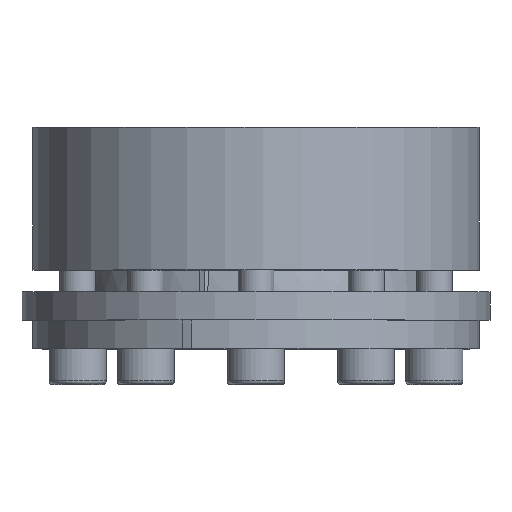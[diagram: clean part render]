
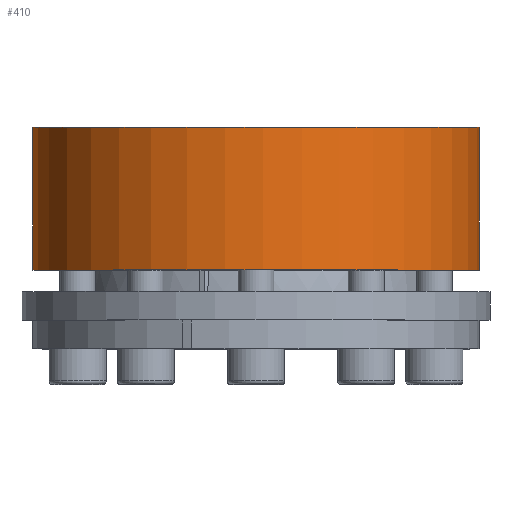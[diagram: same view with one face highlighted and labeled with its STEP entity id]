
A CAD part, top view. The second image highlights one B-rep face of the part: STEP entity #410.
In plain terms, the highlighted cylindrical face has radius 62.5 mm (diameter 125 mm), a partial arc.
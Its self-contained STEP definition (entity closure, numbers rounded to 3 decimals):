
#410 = ADVANCED_FACE( '', ( #674 ), #675, .T. );
#674 = FACE_OUTER_BOUND( '', #878, .T. );
#675 = CYLINDRICAL_SURFACE( '', #879, 62.5 );
#878 = EDGE_LOOP( '', ( #1263, #1264, #1265, #1266 ) );
#879 = AXIS2_PLACEMENT_3D( '', #1267, #1268, #1269 );
#1263 = ORIENTED_EDGE( '', *, *, #1629, .F. );
#1264 = ORIENTED_EDGE( '', *, *, #1567, .T. );
#1265 = ORIENTED_EDGE( '', *, *, #1630, .T. );
#1266 = ORIENTED_EDGE( '', *, *, #1553, .F. );
#1267 = CARTESIAN_POINT( '', ( 0., -60., 0. ) );
#1268 = DIRECTION( '', ( 0., 1., 0. ) );
#1269 = DIRECTION( '', ( 0., 0., -1. ) );
#1553 = EDGE_CURVE( '', #1751, #1752, #1753, .F. );
#1567 = EDGE_CURVE( '', #1771, #1773, #1775, .F. );
#1629 = EDGE_CURVE( '', #1771, #1751, #1875, .T. );
#1630 = EDGE_CURVE( '', #1773, #1752, #1876, .T. );
#1751 = VERTEX_POINT( '', #1950 );
#1752 = VERTEX_POINT( '', #1951 );
#1753 = LINE( '', #1952, #1953 );
#1771 = VERTEX_POINT( '', #1983 );
#1773 = VERTEX_POINT( '', #1986 );
#1775 = LINE( '', #1989, #1990 );
#1875 = CIRCLE( '', #2117, 62.5 );
#1876 = CIRCLE( '', #2118, 62.5 );
#1950 = CARTESIAN_POINT( '', ( 18.121, 22., -59.815 ) );
#1951 = CARTESIAN_POINT( '', ( 18.121, 62., -59.815 ) );
#1952 = CARTESIAN_POINT( '', ( 18.121, -60., -59.815 ) );
#1953 = VECTOR( '', #2195, 1000. );
#1983 = CARTESIAN_POINT( '', ( 20.499, 22., -59.043 ) );
#1986 = CARTESIAN_POINT( '', ( 20.499, 62., -59.043 ) );
#1989 = CARTESIAN_POINT( '', ( 20.499, -60., -59.043 ) );
#1990 = VECTOR( '', #2213, 1000. );
#2117 = AXIS2_PLACEMENT_3D( '', #2349, #2350, #2351 );
#2118 = AXIS2_PLACEMENT_3D( '', #2352, #2353, #2354 );
#2195 = DIRECTION( '', ( 0., -1., 0. ) );
#2213 = DIRECTION( '', ( 0., -1., 0. ) );
#2349 = CARTESIAN_POINT( '', ( 0., 22., 0. ) );
#2350 = DIRECTION( '', ( 0., -1., 0. ) );
#2351 = DIRECTION( '', ( 0., 0., -1. ) );
#2352 = CARTESIAN_POINT( '', ( 0., 62., 0. ) );
#2353 = DIRECTION( '', ( 0., -1., 0. ) );
#2354 = DIRECTION( '', ( 0., 0., -1. ) );
